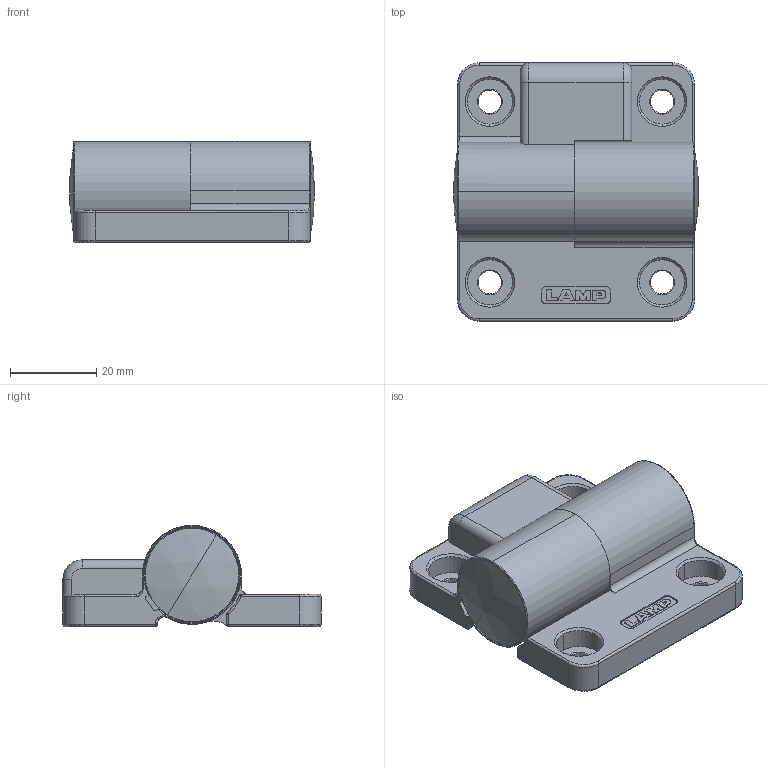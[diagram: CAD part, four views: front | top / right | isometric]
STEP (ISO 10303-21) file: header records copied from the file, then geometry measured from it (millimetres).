
FILE_DESCRIPTION (( 'STEP AP203' ), '1' );
FILE_NAME ('HG-TQJ100_0.step', '2017-08-28T00:42:25', ( '' ), ( '' ), 'SwSTEP 2.0', 'SolidWorks 2015', '' );
FILE_SCHEMA (( 'CONFIG_CONTROL_DESIGN' ));
Length unit declared in the file: millimetre
Products named in the file (3): HG-TQJ100_bracketA; HG-TQJ100_bracketB; HG-TQJ100_0
Assembly tree (2 placements, depth 2):
  HG-TQJ100_0
    HG-TQJ100_bracketA
    HG-TQJ100_bracketB
Bounding box: 56.75 x 60 x 23.5 mm (x, y, z)
Volume: 41966.3 mm3; surface area: 14160.6 mm2
Topology: 2 solids, 4 shells, 347 faces, 899 edges, 569 vertices
Faces by surface type: cylinder 149, plane 111, cone 42, bspline 25, torus 13, sphere 7
Entity records: 11752 total; most frequent: CARTESIAN_POINT 2851, DIRECTION 1890, ORIENTED_EDGE 1786, EDGE_CURVE 893, AXIS2_PLACEMENT_3D 732, VERTEX_POINT 569, LINE 426, VECTOR 426
